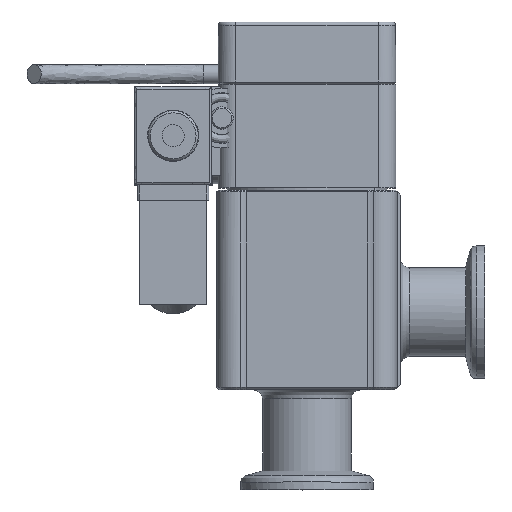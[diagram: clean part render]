
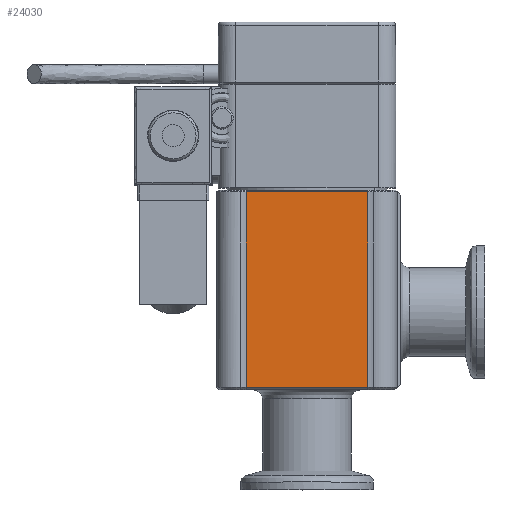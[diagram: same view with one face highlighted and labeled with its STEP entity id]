
A CAD part, top view. The second image highlights one B-rep face of the part: STEP entity #24030.
In plain terms, the highlighted free-form (B-spline) face has degree [1, 1] with [2, 2] control points.
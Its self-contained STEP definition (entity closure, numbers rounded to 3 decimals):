
#23378=CARTESIAN_POINT('V41',(-13.657,20.0,20.0));
#23379=VERTEX_POINT('V41',#23378);
#23402=CARTESIAN_POINT('V44',(-13.657,64.0,20.0));
#23403=VERTEX_POINT('V44',#23402);
#23417=CARTESIAN_POINT('E63',(-13.657,64.,
   20.));
#23418=CARTESIAN_POINT('E63',(-13.657,20.,
   20.));
#23419=B_SPLINE_CURVE_WITH_KNOTS('E63',1,(#23417,#23418),
   .POLYLINE_FORM.,.F.,.U.,(2,2),(2.314,
   36.866),.UNSPECIFIED.);
#23420=EDGE_CURVE('E63',#23403,#23379,#23419,.T.);
#23942=CARTESIAN_POINT('V43',(13.657,64.0,
   20.));
#23943=VERTEX_POINT('V43',#23942);
#23995=CARTESIAN_POINT('E62',(13.657,64.0,
   20.));
#23996=CARTESIAN_POINT('E62',(-13.657,64.0,20.0));
#23997=B_SPLINE_CURVE_WITH_KNOTS('E62',1,(#23995,#23996),
   .POLYLINE_FORM.,.F.,.U.,(2,2),(2.,
   50.285),.UNSPECIFIED.);
#23998=EDGE_CURVE('E62',#23943,#23403,#23997,.T.);
#24009=CARTESIAN_POINT('F27',(-14.422,18.5,
   20.));
#24010=CARTESIAN_POINT('F27',(14.422,18.5,
   20.));
#24011=CARTESIAN_POINT('F27',(-14.422,67.9,
   20.));
#24012=CARTESIAN_POINT('F27',(14.422,67.9,
   20.));
#24013=B_SPLINE_SURFACE_WITH_KNOTS('F27',1,1,((#24009,#24011),(
   #24010,#24012)),.PLANE_SURF.,.F.,.F.,.U.,(2,2),(2,2),(0.0,1.0),
   (0.745,2.458),.UNSPECIFIED.);
#24014=CARTESIAN_POINT('V42',(13.657,20.,
   20.));
#24015=VERTEX_POINT('V42',#24014);
#24016=CARTESIAN_POINT('E60',(-13.657,20.0,
   20.));
#24017=CARTESIAN_POINT('E60',(13.657,20.,
   20.));
#24018=B_SPLINE_CURVE_WITH_KNOTS('E60',1,(#24016,#24017),
   .POLYLINE_FORM.,.F.,.U.,(2,2),(2.0,40.628),
   .UNSPECIFIED.);
#24019=EDGE_CURVE('E60',#23379,#24015,#24018,.T.);
#24020=ORIENTED_EDGE('E60',*,*,#24019,.F.);
#24021=ORIENTED_EDGE('F59',*,*,#23420,.F.);
#24022=ORIENTED_EDGE('E62',*,*,#23998,.F.);
#24023=CARTESIAN_POINT('E61',(13.657,20.,
   20.));
#24024=CARTESIAN_POINT('E61',(13.657,64.0,
   20.));
#24025=B_SPLINE_CURVE_WITH_KNOTS('E61',1,(#24023,#24024),
   .POLYLINE_FORM.,.F.,.U.,(2,2),(2.393,
   36.945),.UNSPECIFIED.);
#24026=EDGE_CURVE('E61',#24015,#23943,#24025,.T.);
#24027=ORIENTED_EDGE('E61',*,*,#24026,.F.);
#24028=EDGE_LOOP('F27',(#24020,#24021,#24022,#24027));
#24029=FACE_OUTER_BOUND('F27',#24028,.F.);
#24030=ADVANCED_FACE('F27',(#24029),#24013,.T.);
